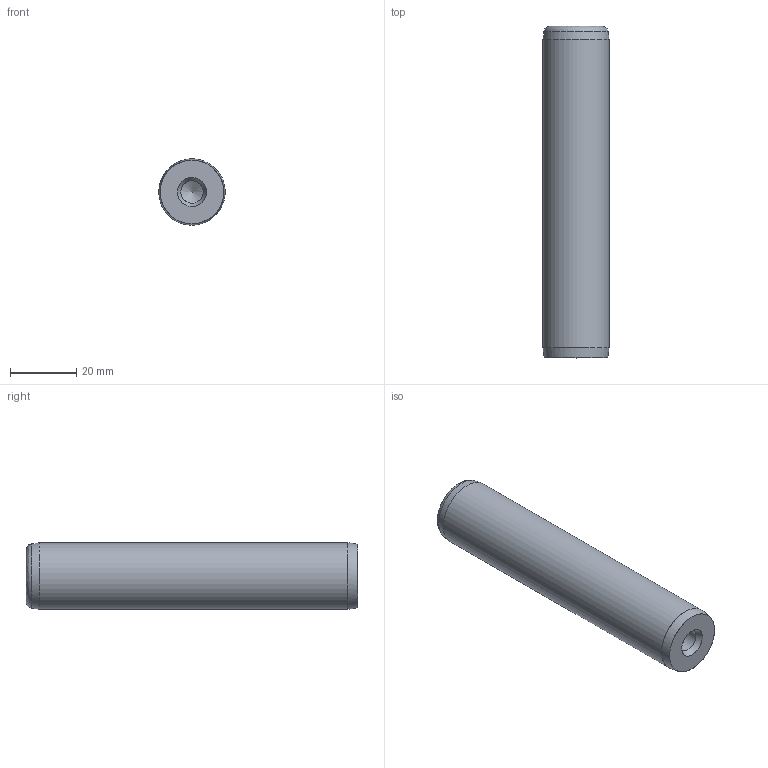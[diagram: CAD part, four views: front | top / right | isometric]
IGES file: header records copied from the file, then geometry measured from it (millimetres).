
Start section: Missler Software BP 521, 31674 Labege Cedex, France Tel   : +33 (0)5 61 00 03 00 Fax   : +33 (0)5 61 00 03 03 Email : sup.topsolid@topsolid.com
Global section: file name: D:\Cuma\D14\D14_20100.igs; native system: TopSolid v605250 Missler Software; preprocessor: IGES preprocessor v100000; date: 030119.014536; units: millimetre
Bounding box: 19.94 x 100 x 20 mm (x, y, z)
Surface area: 7920.3 mm2 (no closed solid volume)
Topology: 0 solids, 0 shells, 14 faces, 129 edges, 120 vertices
Faces by surface type: bspline 14
